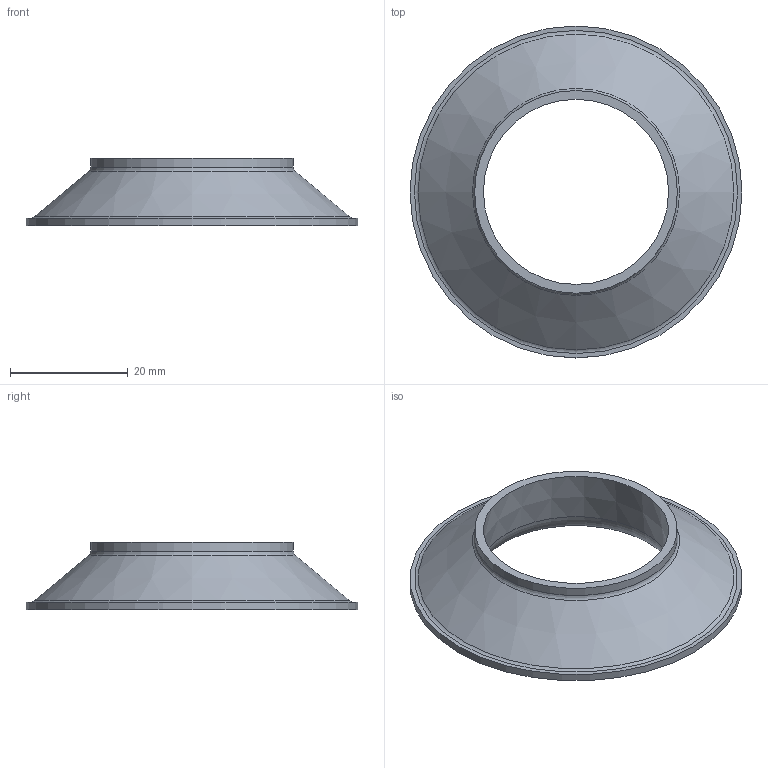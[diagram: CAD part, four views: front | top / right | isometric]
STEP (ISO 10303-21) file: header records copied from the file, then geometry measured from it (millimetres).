
FILE_DESCRIPTION( ('This file contains a STEP AP42 implementation' ,'as created by ZW3D STEP Interface translator.') ,'2;1' );
FILE_NAME( 'KM-31.stp' ,'26 5 8.1027 1', (''), ('ZWCAD Software Co.'), 'Version 1.0', 'ZW3D to STEP translator', '' );
FILE_SCHEMA(('AP242_MANAGED_MODEL_BASED_3D_ENGINEERING_MIM_LF { 1 0 10303 442 1 1 4 }'));
Length unit declared in the file: millimetre
Products named in the file (1): 0
Bounding box: 56.5 x 56.5 x 11.5 mm (x, y, z)
Volume: 8443.2 mm3; surface area: 5325.4 mm2
Topology: 1 solids, 1 shells, 10 faces, 17 edges, 10 vertices
Faces by surface type: plane 3, torus 3, cylinder 2, cone 2
Full cylindrical faces by diameter (mm): 34.5 x1, 56.5 x1
Entity records: 276 total; most frequent: DIRECTION 52, CARTESIAN_POINT 38, ORIENTED_EDGE 34, AXIS2_PLACEMENT_3D 24, EDGE_CURVE 17, CIRCLE 13, EDGE_LOOP 13, VERTEX_POINT 10
